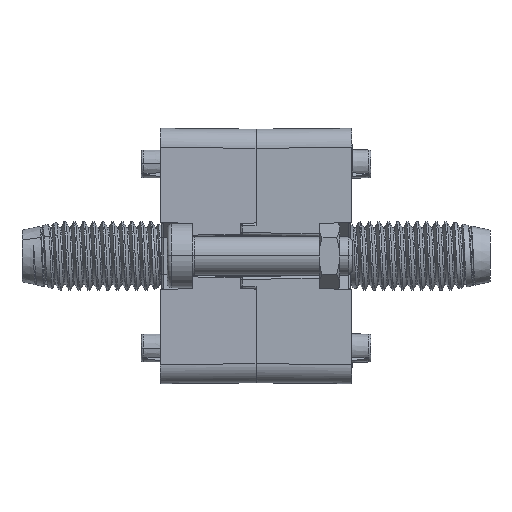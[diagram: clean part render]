
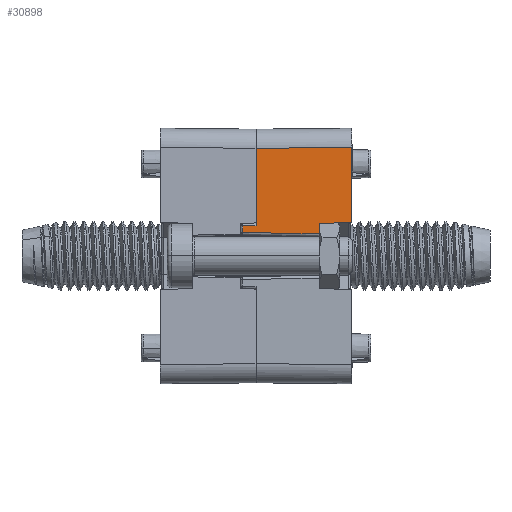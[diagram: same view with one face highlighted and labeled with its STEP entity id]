
A CAD part, left-side view. The second image highlights one B-rep face of the part: STEP entity #30898.
In plain terms, the highlighted planar face has unit normal (-1, 0.009, 0).
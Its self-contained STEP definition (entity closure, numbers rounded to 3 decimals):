
#904 = EDGE_CURVE ( 'NONE', #28041, #3179, #30564, .T. ) ;
#945 = EDGE_CURVE ( 'NONE', #15026, #6401, #22485, .T. ) ;
#1045 = VERTEX_POINT ( 'NONE', #4663 ) ;
#2356 = AXIS2_PLACEMENT_3D ( 'NONE', #23685, #28624, #13902 ) ;
#2622 = CARTESIAN_POINT ( 'NONE',  ( -19.876, 17.103, -20.025 ) ) ;
#2878 = FACE_OUTER_BOUND ( 'NONE', #24605, .T. ) ;
#2991 = CARTESIAN_POINT ( 'NONE',  ( -20.023, 0.198, 5.198 ) ) ;
#3179 = VERTEX_POINT ( 'NONE', #25086 ) ;
#3492 = CARTESIAN_POINT ( 'NONE',  ( -19.98, 5.1, 4.858 ) ) ;
#4024 = PLANE ( 'NONE',  #2356 ) ;
#4180 = EDGE_CURVE ( 'NONE', #13112, #7928, #4480, .T. ) ;
#4405 =( BOUNDED_CURVE ( )  B_SPLINE_CURVE ( 3, ( #2991, #17665, #5475, #22624 ),
 .UNSPECIFIED., .F., .T. ) 
 B_SPLINE_CURVE_WITH_KNOTS ( ( 4, 4 ),
 ( 4.721, 6.283 ),
 .UNSPECIFIED. ) 
 CURVE ( )  GEOMETRIC_REPRESENTATION_ITEM ( )  RATIONAL_B_SPLINE_CURVE ( ( 1., 0.807, 0.807, 1. ) ) 
 REPRESENTATION_ITEM ( '' )  );
#4480 = LINE ( 'NONE', #24320, #10256 ) ;
#4585 = ORIENTED_EDGE ( 'NONE', *, *, #29273, .F. ) ;
#4663 = CARTESIAN_POINT ( 'NONE',  ( -19.894, 15., 4.75 ) ) ;
#4683 = DIRECTION ( 'NONE',  ( -0.009, -1., 0.009 ) ) ;
#4932 = CARTESIAN_POINT ( 'NONE',  ( -20.025, 0., 5.398 ) ) ;
#5475 = CARTESIAN_POINT ( 'NONE',  ( -20.025, 0., 5.282 ) ) ;
#6236 = ORIENTED_EDGE ( 'NONE', *, *, #904, .T. ) ;
#6401 = VERTEX_POINT ( 'NONE', #15812 ) ;
#7419 = CARTESIAN_POINT ( 'NONE',  ( -20.022, 0.323, 17.022 ) ) ;
#7928 = VERTEX_POINT ( 'NONE', #29331 ) ;
#8411 = CARTESIAN_POINT ( 'NONE',  ( -19.982, 4.977, 5.157 ) ) ;
#9128 = DIRECTION ( 'NONE',  ( -0.009, -1., -0.017 ) ) ;
#9420 = VECTOR ( 'NONE', #19769, 1000. ) ;
#9803 = DIRECTION ( 'NONE',  ( 0., 0., 1. ) ) ;
#10256 = VECTOR ( 'NONE', #4683, 1000. ) ;
#10319 = DIRECTION ( 'NONE',  ( 0., 0., 1. ) ) ;
#10915 = ORIENTED_EDGE ( 'NONE', *, *, #19497, .T. ) ;
#11411 = LINE ( 'NONE', #28784, #24489 ) ;
#11757 = VERTEX_POINT ( 'NONE', #27932 ) ;
#13112 = VERTEX_POINT ( 'NONE', #22827 ) ;
#13902 = DIRECTION ( 'NONE',  ( -0.009, -1., 0. ) ) ;
#13963 = VERTEX_POINT ( 'NONE', #29475 ) ;
#14168 = DIRECTION ( 'NONE',  ( 0.009, 1., -0.009 ) ) ;
#14376 = CARTESIAN_POINT ( 'NONE',  ( -19.98, 5.1, -20.025 ) ) ;
#15026 = VERTEX_POINT ( 'NONE', #26451 ) ;
#15243 = VECTOR ( 'NONE', #10319, 1000. ) ;
#15781 = ORIENTED_EDGE ( 'NONE', *, *, #29048, .F. ) ;
#15812 = CARTESIAN_POINT ( 'NONE',  ( -19.876, 17.103, 3.687 ) ) ;
#15980 = LINE ( 'NONE', #27525, #15243 ) ;
#16228 = EDGE_CURVE ( 'NONE', #13963, #13112, #26668, .T. ) ;
#16594 = CARTESIAN_POINT ( 'NONE',  ( -19.894, 15., 16.894 ) ) ;
#16689 = VECTOR ( 'NONE', #27076, 1000. ) ;
#16994 = VERTEX_POINT ( 'NONE', #16594 ) ;
#17665 = CARTESIAN_POINT ( 'NONE',  ( -20.024, 0.082, 5.199 ) ) ;
#18025 = EDGE_CURVE ( 'NONE', #6401, #11757, #11411, .T. ) ;
#18186 = CARTESIAN_POINT ( 'NONE',  ( -19.98, 5.1, 5.033 ) ) ;
#18443 = EDGE_CURVE ( 'NONE', #7928, #28041, #4405, .T. ) ;
#19037 = ORIENTED_EDGE ( 'NONE', *, *, #24600, .T. ) ;
#19497 = EDGE_CURVE ( 'NONE', #3179, #16994, #23254, .T. ) ;
#19769 = DIRECTION ( 'NONE',  ( 0., 0., -1. ) ) ;
#19864 = LINE ( 'NONE', #14376, #27194 ) ;
#20082 = ORIENTED_EDGE ( 'NONE', *, *, #4180, .T. ) ;
#22485 = LINE ( 'NONE', #2622, #9420 ) ;
#22624 = CARTESIAN_POINT ( 'NONE',  ( -20.025, 0., 5.398 ) ) ;
#22827 = CARTESIAN_POINT ( 'NONE',  ( -19.983, 4.803, 5.158 ) ) ;
#23133 = LINE ( 'NONE', #29018, #28143 ) ;
#23254 = LINE ( 'NONE', #7419, #16689 ) ;
#23685 = CARTESIAN_POINT ( 'NONE',  ( -20.025, 0., -20.025 ) ) ;
#23790 = ORIENTED_EDGE ( 'NONE', *, *, #945, .T. ) ;
#24320 = CARTESIAN_POINT ( 'NONE',  ( -20.023, 0.22, 5.198 ) ) ;
#24489 = VECTOR ( 'NONE', #9128, 1000. ) ;
#24600 = EDGE_CURVE ( 'NONE', #1045, #15026, #23133, .T. ) ;
#24605 = EDGE_LOOP ( 'NONE', ( #15781, #24898, #20082, #27107, #6236, #10915, #4585, #19037, #23790, #30822 ) ) ;
#24898 = ORIENTED_EDGE ( 'NONE', *, *, #16228, .T. ) ;
#25086 = CARTESIAN_POINT ( 'NONE',  ( -20.025, 0., 17.025 ) ) ;
#25605 = CARTESIAN_POINT ( 'NONE',  ( -19.983, 4.803, 5.158 ) ) ;
#26451 = CARTESIAN_POINT ( 'NONE',  ( -19.876, 17.103, 4.732 ) ) ;
#26668 =( BOUNDED_CURVE ( )  B_SPLINE_CURVE ( 3, ( #3492, #18186, #8411, #25605 ),
 .UNSPECIFIED., .F., .F. ) 
 B_SPLINE_CURVE_WITH_KNOTS ( ( 4, 4 ),
 ( 3.142, 4.704 ),
 .UNSPECIFIED. ) 
 CURVE ( )  GEOMETRIC_REPRESENTATION_ITEM ( )  RATIONAL_B_SPLINE_CURVE ( ( 1., 0.807, 0.807, 1. ) ) 
 REPRESENTATION_ITEM ( '' )  );
#27008 = CARTESIAN_POINT ( 'NONE',  ( -20.025, 0., -20.025 ) ) ;
#27076 = DIRECTION ( 'NONE',  ( 0.009, 1., -0.009 ) ) ;
#27107 = ORIENTED_EDGE ( 'NONE', *, *, #18443, .T. ) ;
#27194 = VECTOR ( 'NONE', #31585, 1000. ) ;
#27525 = CARTESIAN_POINT ( 'NONE',  ( -19.894, 15., -20.025 ) ) ;
#27932 = CARTESIAN_POINT ( 'NONE',  ( -19.98, 5.1, 3.477 ) ) ;
#28041 = VERTEX_POINT ( 'NONE', #4932 ) ;
#28143 = VECTOR ( 'NONE', #14168, 1000. ) ;
#28624 = DIRECTION ( 'NONE',  ( -1., 0.009, 0. ) ) ;
#28784 = CARTESIAN_POINT ( 'NONE',  ( -20.029, -0.409, 3.381 ) ) ;
#29018 = CARTESIAN_POINT ( 'NONE',  ( -20.023, 0.217, 4.879 ) ) ;
#29048 = EDGE_CURVE ( 'NONE', #13963, #11757, #19864, .T. ) ;
#29273 = EDGE_CURVE ( 'NONE', #1045, #16994, #15980, .T. ) ;
#29331 = CARTESIAN_POINT ( 'NONE',  ( -20.023, 0.198, 5.198 ) ) ;
#29475 = CARTESIAN_POINT ( 'NONE',  ( -19.98, 5.1, 4.858 ) ) ;
#29822 = VECTOR ( 'NONE', #9803, 1000. ) ;
#30564 = LINE ( 'NONE', #27008, #29822 ) ;
#30822 = ORIENTED_EDGE ( 'NONE', *, *, #18025, .T. ) ;
#30898 = ADVANCED_FACE ( 'NONE', ( #2878 ), #4024, .T. ) ;
#31585 = DIRECTION ( 'NONE',  ( 0., 0., -1. ) ) ;
